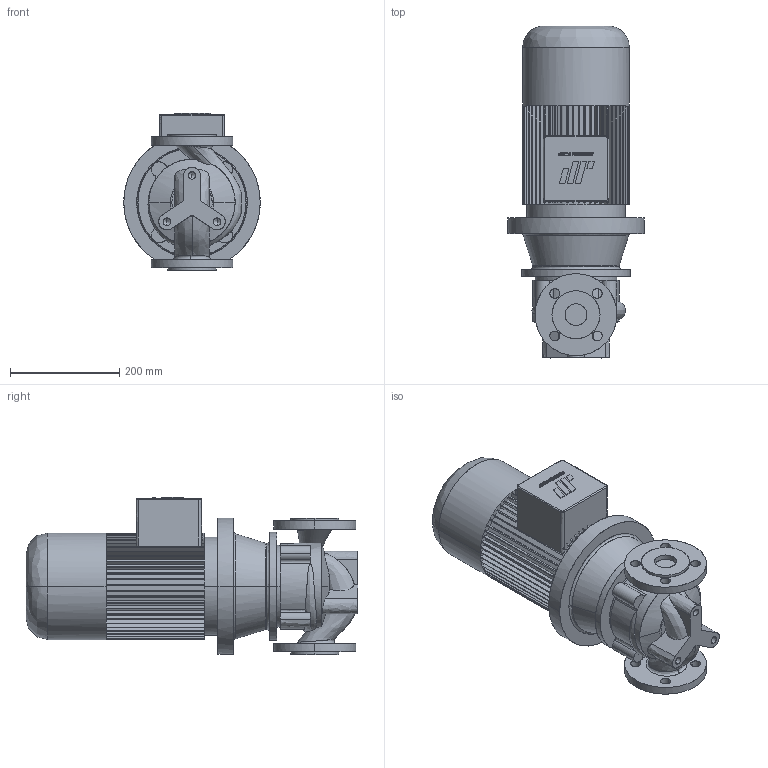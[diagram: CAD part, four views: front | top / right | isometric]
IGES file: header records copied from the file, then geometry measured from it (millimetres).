
Start section: CombiLine
Global section: file name: CLB_40-125_IEC100L_ND10.igs; native system:  By UGS Corp.; preprocessor: XPlus GENERIC/IGES 3.0; author: Stageplaats; organization: Johnson Pump Water B.V.; date: 20070716.103017; units: millimetre
Bounding box: 250 x 608 x 288 mm (x, y, z)
Surface area: 767005.7 mm2 (no closed solid volume)
Topology: 0 solids, 0 shells, 643 faces, 3689 edges, 3683 vertices
Faces by surface type: bspline 643
